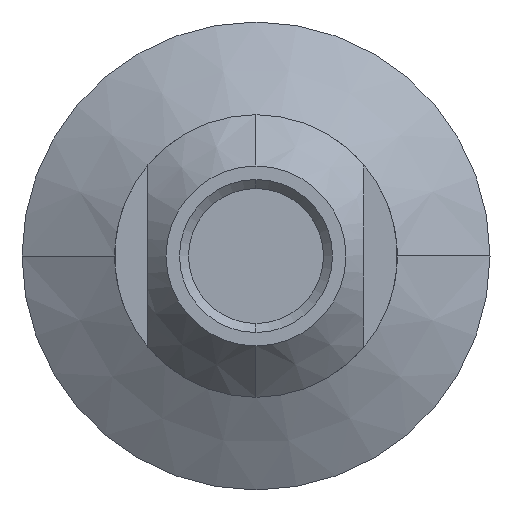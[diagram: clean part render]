
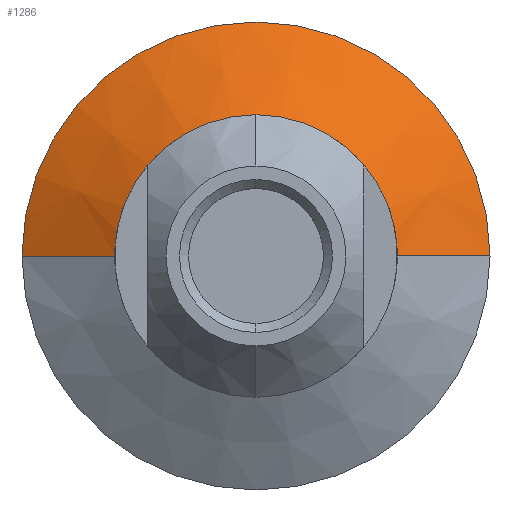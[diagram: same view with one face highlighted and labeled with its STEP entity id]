
A CAD part, left-side view. The second image highlights one B-rep face of the part: STEP entity #1286.
In plain terms, the highlighted conical face has half-angle 59.778 degrees and reference radius 13 mm.
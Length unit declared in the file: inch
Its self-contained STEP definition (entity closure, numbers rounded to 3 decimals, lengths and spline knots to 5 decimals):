
#41 = VERTEX_POINT ( 'NONE', #1556 ) ;
#42 = VECTOR ( 'NONE', #90, 39.37008 ) ;
#84 = CIRCLE ( 'NONE', #1955, 0.51181 ) ;
#89 = VERTEX_POINT ( 'NONE', #2383 ) ;
#90 = DIRECTION ( 'NONE',  ( 0.503, -0.864, 0. ) ) ;
#91 = CARTESIAN_POINT ( 'NONE',  ( 0.94488, 0., 0.51181 ) ) ;
#170 = AXIS2_PLACEMENT_3D ( 'NONE', #699, #1996, #891 ) ;
#173 = LINE ( 'NONE', #915, #610 ) ;
#246 = CARTESIAN_POINT ( 'NONE',  ( 0.94488, 0., 0. ) ) ;
#255 = ORIENTED_EDGE ( 'NONE', *, *, #1291, .T. ) ;
#266 = CARTESIAN_POINT ( 'NONE',  ( 0.82677, 0., 0. ) ) ;
#271 = CIRCLE ( 'NONE', #2020, 0.51181 ) ;
#330 = FACE_OUTER_BOUND ( 'NONE', #660, .T. ) ;
#343 = VERTEX_POINT ( 'NONE', #91 ) ;
#431 = DIRECTION ( 'NONE',  ( 0., 0., 1. ) ) ;
#436 = AXIS2_PLACEMENT_3D ( 'NONE', #266, #1559, #451 ) ;
#441 = CARTESIAN_POINT ( 'NONE',  ( 0.82677, -0.30906, 0. ) ) ;
#451 = DIRECTION ( 'NONE',  ( 0., 0., -1. ) ) ;
#496 = CARTESIAN_POINT ( 'NONE',  ( 0.82677, 0.30906, 0. ) ) ;
#530 = DIRECTION ( 'NONE',  ( 0.503, 0.864, 0. ) ) ;
#610 = VECTOR ( 'NONE', #530, 39.37008 ) ;
#660 = EDGE_LOOP ( 'NONE', ( #1276, #255, #2193, #1522, #1100, #1796 ) ) ;
#699 = CARTESIAN_POINT ( 'NONE',  ( 0.82677, 0., 0. ) ) ;
#760 = EDGE_CURVE ( 'NONE', #1364, #1761, #2208, .T. ) ;
#818 = CARTESIAN_POINT ( 'NONE',  ( 0.94488, 0., 0. ) ) ;
#881 = CARTESIAN_POINT ( 'NONE',  ( 0.94488, 0., 0. ) ) ;
#891 = DIRECTION ( 'NONE',  ( 0., 0., -1. ) ) ;
#915 = CARTESIAN_POINT ( 'NONE',  ( 0.94488, 0.51181, 0. ) ) ;
#1031 = EDGE_CURVE ( 'NONE', #1473, #89, #173, .T. ) ;
#1096 = DIRECTION ( 'NONE',  ( 0., 0., 1. ) ) ;
#1100 = ORIENTED_EDGE ( 'NONE', *, *, #1031, .F. ) ;
#1199 = CARTESIAN_POINT ( 'NONE',  ( 0.94488, -0.51181, 0. ) ) ;
#1276 = ORIENTED_EDGE ( 'NONE', *, *, #760, .T. ) ;
#1286 = ADVANCED_FACE ( 'NONE', ( #330 ), #1460, .T. ) ;
#1291 = EDGE_CURVE ( 'NONE', #1761, #41, #2012, .T. ) ;
#1364 = VERTEX_POINT ( 'NONE', #1786 ) ;
#1378 = DIRECTION ( 'NONE',  ( 1., 0., 0. ) ) ;
#1460 = CONICAL_SURFACE ( 'NONE', #2375, 0.51181, 1.043 ) ;
#1473 = VERTEX_POINT ( 'NONE', #496 ) ;
#1489 = EDGE_CURVE ( 'NONE', #89, #343, #271, .T. ) ;
#1522 = ORIENTED_EDGE ( 'NONE', *, *, #1489, .F. ) ;
#1541 = DIRECTION ( 'NONE',  ( 1., 0., 0. ) ) ;
#1556 = CARTESIAN_POINT ( 'NONE',  ( 0.94488, -0.51181, 0. ) ) ;
#1559 = DIRECTION ( 'NONE',  ( 1., 0., 0. ) ) ;
#1744 = EDGE_CURVE ( 'NONE', #1473, #1364, #2393, .T. ) ;
#1761 = VERTEX_POINT ( 'NONE', #441 ) ;
#1786 = CARTESIAN_POINT ( 'NONE',  ( 0.82677, 0., 0.30906 ) ) ;
#1796 = ORIENTED_EDGE ( 'NONE', *, *, #1744, .T. ) ;
#1938 = DIRECTION ( 'NONE',  ( 0., 1., 0. ) ) ;
#1955 = AXIS2_PLACEMENT_3D ( 'NONE', #246, #1541, #431 ) ;
#1996 = DIRECTION ( 'NONE',  ( 1., 0., 0. ) ) ;
#2012 = LINE ( 'NONE', #1199, #42 ) ;
#2020 = AXIS2_PLACEMENT_3D ( 'NONE', #881, #2173, #1096 ) ;
#2152 = EDGE_CURVE ( 'NONE', #343, #41, #84, .T. ) ;
#2173 = DIRECTION ( 'NONE',  ( 1., 0., 0. ) ) ;
#2193 = ORIENTED_EDGE ( 'NONE', *, *, #2152, .F. ) ;
#2208 = CIRCLE ( 'NONE', #170, 0.30906 ) ;
#2375 = AXIS2_PLACEMENT_3D ( 'NONE', #818, #1378, #1938 ) ;
#2383 = CARTESIAN_POINT ( 'NONE',  ( 0.94488, 0.51181, 0. ) ) ;
#2393 = CIRCLE ( 'NONE', #436, 0.30906 ) ;
